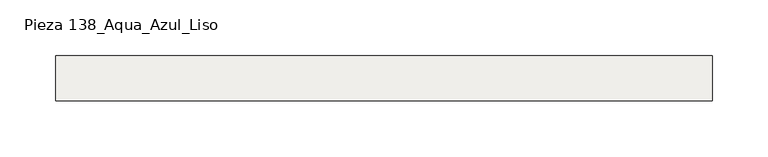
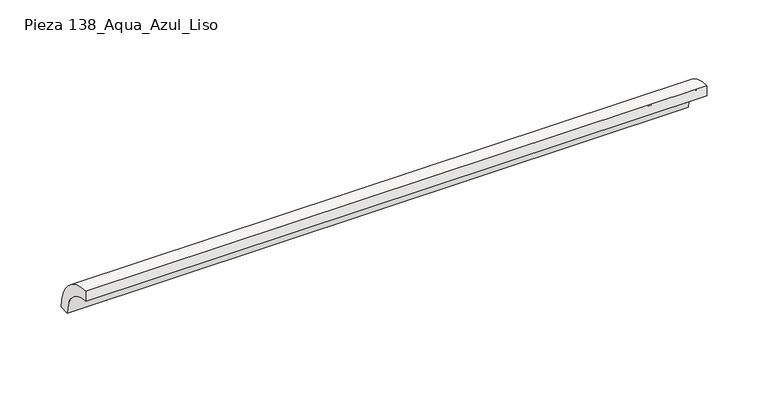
"""IFC4 building model written with IfcOpenShell, lengths in millimetres: slab geometry, ROSA GRES_138 : Pieza 138_Aqua_Azul_Liso."""

from ifc_helpers import new_model, si_unit, point, frame, frame_2d, origin, origin_2d, place, context, project, spatial, polyline, circle_curve, trimmed, segment, composite_curve, outline, extrude, source, transform, mapped, element, save


def pieza_138_aqua_azul_liso_e8f9f07b(model_context):
    return source(origin(), model_context, "Body", "SweptSolid", [
        extrude(outline(composite_curve([segment(trimmed(circle_curve(origin_2d(), 40.0), [point((0.0, 40.0))], [point((40.0, 0.0))], False, "CARTESIAN"), True, "CONTINUOUS"), segment(polyline([(40.0, 0.0), (30.0265886, 0.0)]), True, "CONTINUOUS"), segment(trimmed(circle_curve(frame_2d((0.0044453, 0.0044453)), 30.0221435), [point((30.0265886, 0.0))], [point((0.0, 30.0265886))], True, "CARTESIAN"), True, "CONTINUOUS"), segment(polyline([(0.0, 30.0265886), (0.0, 40.0)]), True, "CONTINUOUS")], self_intersect=False)), frame((0.0, 0.0, 0.0), z_axis=(1.0, 0.0, 0.0), x_axis=(0.0, 1.0, 0.0)), (0.0, 0.0, 1.0), 585.9454535),
    ])


if __name__ == "__main__":
    model = new_model("IFC4")
    model_context = context("Model", 3, world=origin())
    ifc_project = project(units=[si_unit("LENGTHUNIT", "METRE", prefix="MILLI")], contexts=[model_context])
    site = spatial("IfcSite", under=ifc_project)
    building = spatial("IfcBuilding", under=site)
    placement = place(None, origin())
    pieza_138_aqua_azul_liso_shape = pieza_138_aqua_azul_liso_e8f9f07b(model_context)
    element("IfcSlab", 1, ObjectType="ROSA GRES_138 : Pieza 138_Aqua_Azul_Liso", at=placement, inside=building, context=model_context, shape_type="MappedRepresentation", body=[
        mapped(pieza_138_aqua_azul_liso_shape, transform((0.0, 0.0, 0.0), x_axis=(1.0, 0.0, 0.0), y_axis=(0.0, 1.0, 0.0), z_axis=(0.0, 0.0, 1.0))),
    ])
    save(model, "model.ifc")
